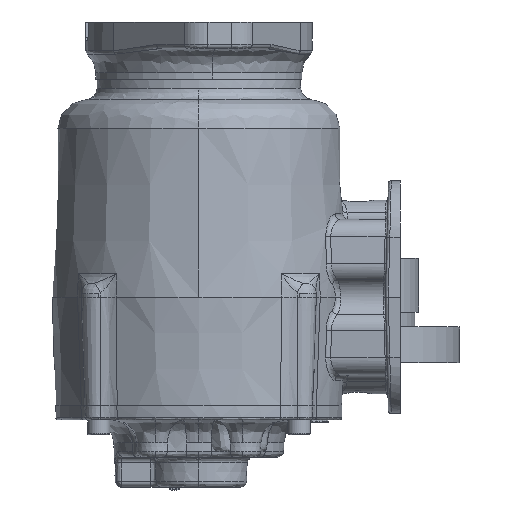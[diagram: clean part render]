
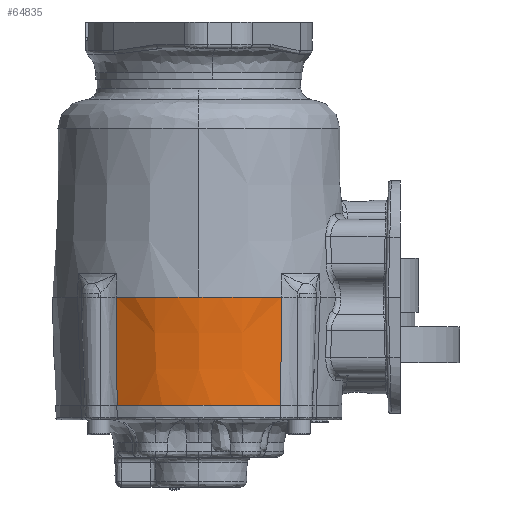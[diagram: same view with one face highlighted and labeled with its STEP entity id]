
A CAD part, left-side view. The second image highlights one B-rep face of the part: STEP entity #64835.
In plain terms, the highlighted conical face has half-angle 2 degrees and reference radius 78.232 mm.
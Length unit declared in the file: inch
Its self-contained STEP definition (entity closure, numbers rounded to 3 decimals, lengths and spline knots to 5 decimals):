
#1721 = EDGE_CURVE ( 'NONE', #71352, #18221, #11311, .T. ) ;
#1722 = EDGE_CURVE ( 'NONE', #18226, #18215, #11319, .T. ) ;
#1738 = EDGE_CURVE ( 'NONE', #71371, #18215, #52558, .T. ) ;
#1743 = EDGE_CURVE ( 'NONE', #18226, #18221, #52563, .T. ) ;
#11311 = CIRCLE ( 'NONE', #11321, 3.08 ) ;
#11319 = CIRCLE ( 'NONE', #11326, 3.00092 ) ;
#11321 = AXIS2_PLACEMENT_3D ( 'NONE', #133600, #133601, #133602 ) ;
#11326 = AXIS2_PLACEMENT_3D ( 'NONE', #133603, #133604, #133605 ) ;
#18215 = VERTEX_POINT ( 'NONE', #106074 ) ;
#18221 = VERTEX_POINT ( 'NONE', #106077 ) ;
#18226 = VERTEX_POINT ( 'NONE', #106079 ) ;
#20104 = CONICAL_SURFACE ( 'NONE', #20107, 3.08, 0.035 ) ;
#20107 = AXIS2_PLACEMENT_3D ( 'NONE', #132091, #132095, #132094 ) ;
#36951 = EDGE_LOOP ( 'NONE', ( #96248, #96250, #96252, #96254, #96256 ) ) ;
#46893 = EDGE_CURVE ( 'NONE', #71371, #71352, #88315, .T. ) ;
#52558 = B_SPLINE_CURVE_WITH_KNOTS ( 'NONE', 3,
 ( #133682, #133672, #133664, #133683 ),
 .UNSPECIFIED., .F., .F.,
 ( 4, 4 ),
 ( 0., 1. ),
 .UNSPECIFIED. ) ;
#52563 = B_SPLINE_CURVE_WITH_KNOTS ( 'NONE', 3,
 ( #133700, #133705, #133716, #133717 ),
 .UNSPECIFIED., .F., .F.,
 ( 4, 4 ),
 ( 0., 1. ),
 .UNSPECIFIED. ) ;
#61544 = CARTESIAN_POINT ( 'NONE',  ( -3.40707, 0.03727, -0.86956 ) ) ;
#61600 = CARTESIAN_POINT ( 'NONE',  ( -2.87096, 1.77365, -0.86956 ) ) ;
#64835 = ADVANCED_FACE ( 'NONE', ( #132081 ), #20104, .T. ) ;
#71352 = VERTEX_POINT ( 'NONE', #61544 ) ;
#71371 = VERTEX_POINT ( 'NONE', #61600 ) ;
#88315 = CIRCLE ( 'NONE', #88318, 3.08 ) ;
#88318 = AXIS2_PLACEMENT_3D ( 'NONE', #92730, #92731, #92732 ) ;
#92730 = CARTESIAN_POINT ( 'NONE',  ( -0.32707, 0.03727, -0.86956 ) ) ;
#92731 = DIRECTION ( 'NONE',  ( 0., 0., 1. ) ) ;
#92732 = DIRECTION ( 'NONE',  ( 1., 0., 0. ) ) ;
#96248 = ORIENTED_EDGE ( 'NONE', *, *, #46893, .F. ) ;
#96250 = ORIENTED_EDGE ( 'NONE', *, *, #1738, .T. ) ;
#96252 = ORIENTED_EDGE ( 'NONE', *, *, #1722, .F. ) ;
#96254 = ORIENTED_EDGE ( 'NONE', *, *, #1743, .T. ) ;
#96256 = ORIENTED_EDGE ( 'NONE', *, *, #1721, .F. ) ;
#106074 = CARTESIAN_POINT ( 'NONE',  ( -2.79144, 1.7497, -3.13406 ) ) ;
#106077 = CARTESIAN_POINT ( 'NONE',  ( -2.87096, -1.6991, -0.86956 ) ) ;
#106079 = CARTESIAN_POINT ( 'NONE',  ( -2.79144, -1.67515, -3.13406 ) ) ;
#132081 = FACE_OUTER_BOUND ( 'NONE', #36951, .T. ) ;
#132091 = CARTESIAN_POINT ( 'NONE',  ( -0.32707, 0.03727, -0.86956 ) ) ;
#132094 = DIRECTION ( 'NONE',  ( 1., 0., 0. ) ) ;
#132095 = DIRECTION ( 'NONE',  ( 0., 0., 1. ) ) ;
#133600 = CARTESIAN_POINT ( 'NONE',  ( -0.32707, 0.03727, -0.86956 ) ) ;
#133601 = DIRECTION ( 'NONE',  ( 0., 0., 1. ) ) ;
#133602 = DIRECTION ( 'NONE',  ( 1., 0., 0. ) ) ;
#133603 = CARTESIAN_POINT ( 'NONE',  ( -0.32707, 0.03727, -3.13406 ) ) ;
#133604 = DIRECTION ( 'NONE',  ( 0., 0., -1. ) ) ;
#133605 = DIRECTION ( 'NONE',  ( 1., 0., 0. ) ) ;
#133664 = CARTESIAN_POINT ( 'NONE',  ( -2.81732, 1.75734, -2.4006 ) ) ;
#133672 = CARTESIAN_POINT ( 'NONE',  ( -2.84382, 1.76533, -1.64577 ) ) ;
#133682 = CARTESIAN_POINT ( 'NONE',  ( -2.87096, 1.77365, -0.86956 ) ) ;
#133683 = CARTESIAN_POINT ( 'NONE',  ( -2.79144, 1.7497, -3.13406 ) ) ;
#133700 = CARTESIAN_POINT ( 'NONE',  ( -2.79144, -1.67515, -3.13406 ) ) ;
#133705 = CARTESIAN_POINT ( 'NONE',  ( -2.81732, -1.6828, -2.4006 ) ) ;
#133716 = CARTESIAN_POINT ( 'NONE',  ( -2.84382, -1.69078, -1.64577 ) ) ;
#133717 = CARTESIAN_POINT ( 'NONE',  ( -2.87096, -1.6991, -0.86956 ) ) ;
